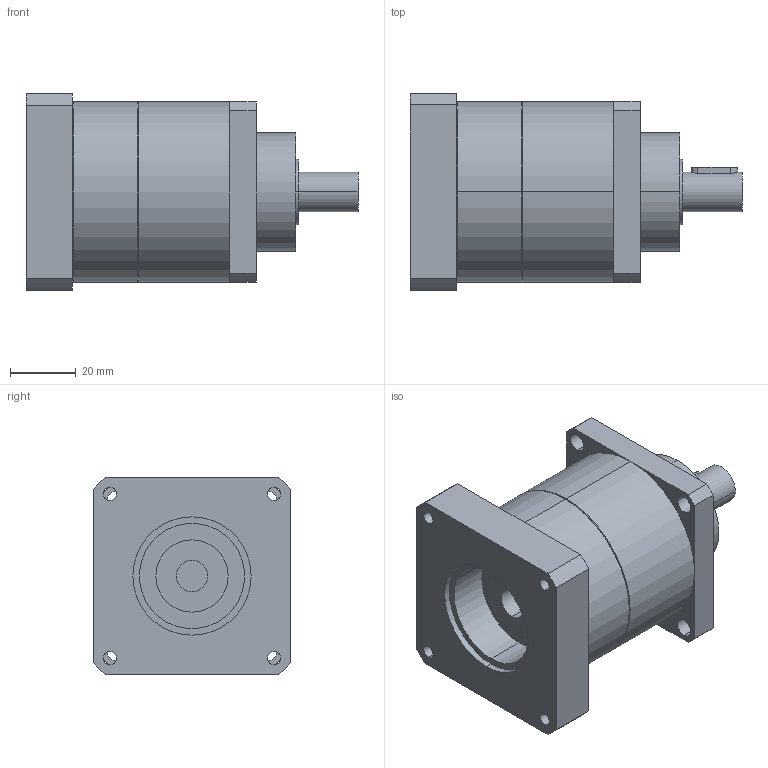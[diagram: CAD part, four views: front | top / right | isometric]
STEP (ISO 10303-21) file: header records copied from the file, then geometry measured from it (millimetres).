
FILE_DESCRIPTION(('CoCreate Modeling STEP Export'),'2;1');
FILE_NAME('GPT55_ig-3-4-5-7-10_12_B5A_9.52_P35.stp','2014-08-25T14:35:23',(''),(''),'CoCreate Modeling STEP processor for AP214 (Solid Model)','CoCreate Modeling 16.00C 25-Feb-2009 (C) Parametric Technology GmbH','');
FILE_SCHEMA(('AUTOMOTIVE_DESIGN { 1 0 10303 214 1 1 1 1 }'));
Length unit declared in the file: millimetre
Products named in the file (2): GPT55_ig-3-4-5-7-10_12_B5A_9.52_P35
Assembly tree (1 placements, depth 2):
  GPT55_ig-3-4-5-7-10_12_B5A_9.52_P35
    GPT55_ig-3-4-5-7-10_12_B5A_9.52_P35
Bounding box: 101 x 60 x 60 mm (x, y, z)
Volume: 189046.9 mm3; surface area: 27387.7 mm2
Topology: 1 solids, 1 shells, 77 faces, 204 edges, 139 vertices
Faces by surface type: cylinder 46, plane 27, cone 4
Entity records: 2515 total; most frequent: CARTESIAN_POINT 710, ORIENTED_EDGE 408, DIRECTION 318, EDGE_CURVE 204, VERTEX_POINT 139, AXIS2_PLACEMENT_3D 117, EDGE_LOOP 103, VECTOR 84
